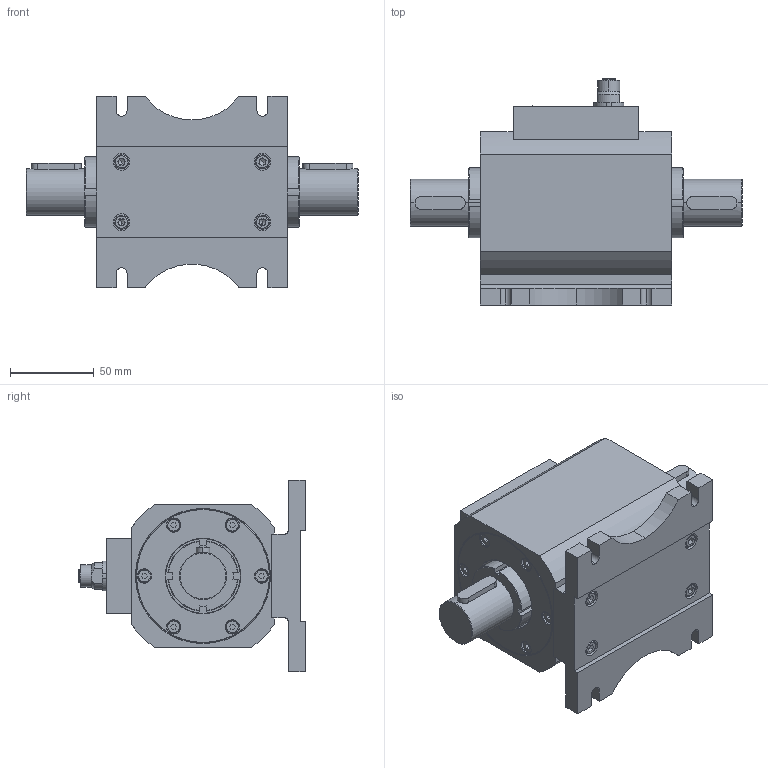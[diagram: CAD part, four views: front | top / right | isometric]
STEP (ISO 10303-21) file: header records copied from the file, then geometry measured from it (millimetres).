
FILE_DESCRIPTION (( 'STEP AP203' ), '1' );
FILE_NAME ('FYTH-500NM-眒瞄勤.STEP', '2024-07-17T09:01:13', ( '' ), ( '' ), 'SwSTEP 2.0', 'SolidWorks 2019', '' );
FILE_SCHEMA (( 'CONFIG_CONTROL_DESIGN' ));
Length unit declared in the file: millimetre
Products named in the file (1): FYTH-500NM-眒瞄勤
Bounding box: 198 x 135.1 x 114 mm (x, y, z)
Volume: 1035509.2 mm3; surface area: 127192.5 mm2
Topology: 7 solids, 7 shells, 750 faces, 1861 edges, 1195 vertices
Faces by surface type: cylinder 328, plane 314, cone 83, bspline 12, torus 12, sphere 1
Entity records: 35352 total; most frequent: CARTESIAN_POINT 18020, ORIENTED_EDGE 3684, DIRECTION 3513, EDGE_CURVE 1842, AXIS2_PLACEMENT_3D 1254, VERTEX_POINT 1193, LINE 1005, VECTOR 1005
